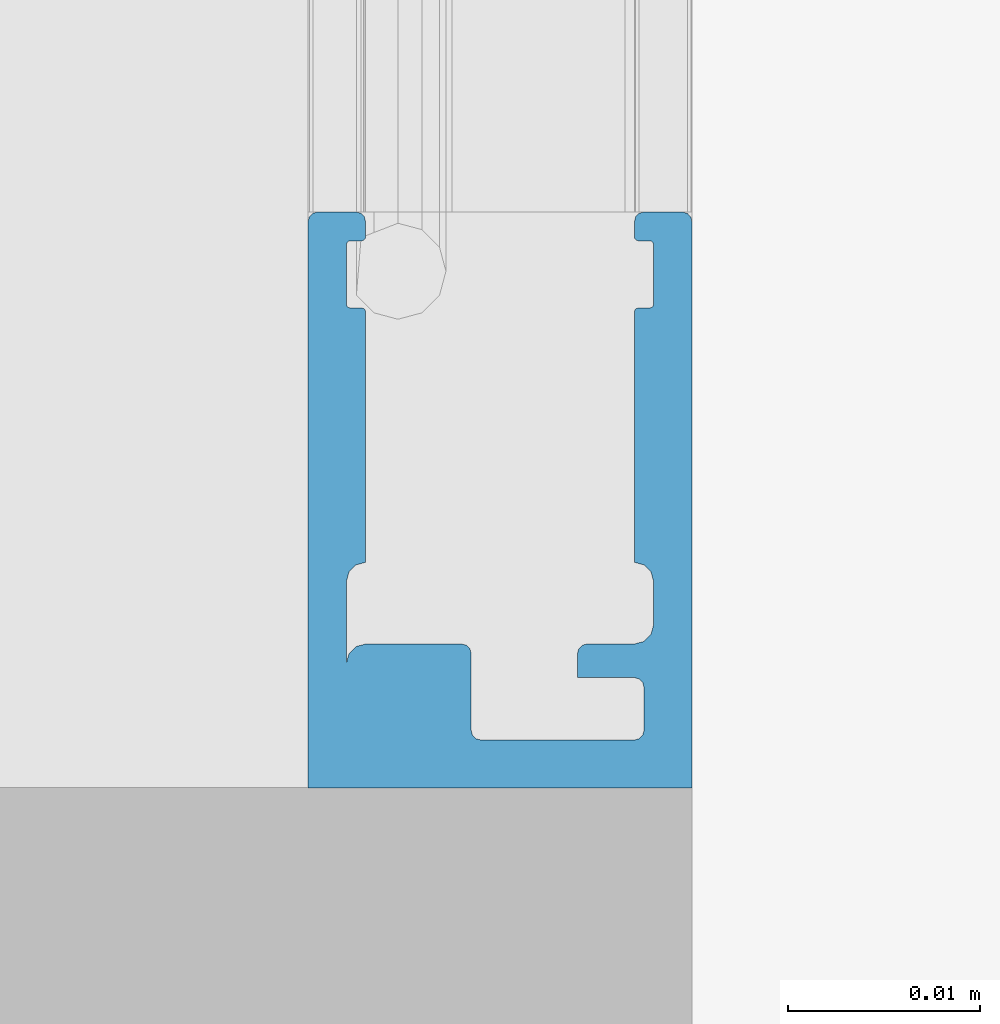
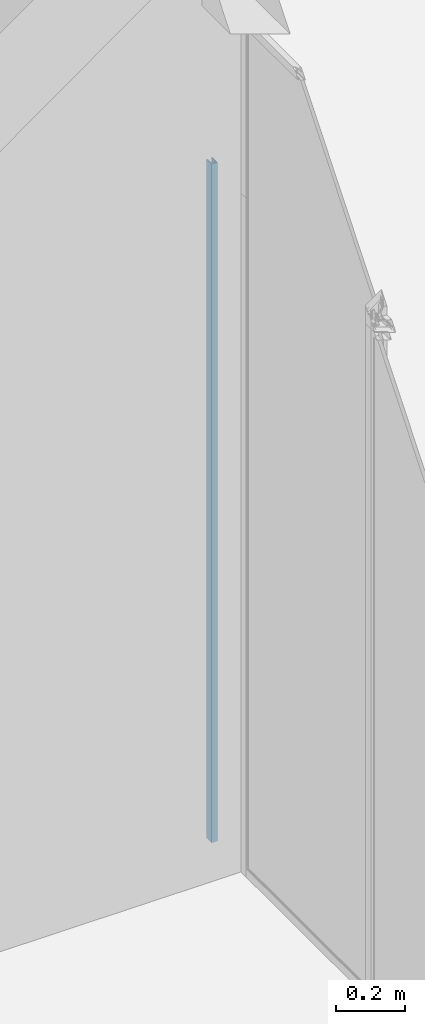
# One storey, part 94 of 387: 1 building element part, 2 elements without a shape of their own.
"""IFC2X3 building model written with IfcOpenShell, lengths in millimetres."""

import ifcopenshell
import ifcopenshell.guid

model = None  # the IFC model being written
_history = None  # IfcOwnerHistory: only IFC2X3 demands one
_inside = {}  # id of a spatial element -> (the spatial element, [elements in it])
_under = {}  # id of a project, library or spatial element -> (it, [spatial elements below it])
_declared = {}  # id of a project -> (the project, [libraries it declares])
_typed = {}  # id of a type object -> (the type object, [elements of that type])
_made_of = {}  # id of a material, layer set ... -> (it, [elements and type objects made of it])


def new_model(schema):
    """Start an empty IFC model of exactly this schema.

    Asked for "IFC4X3", IfcOpenShell would pick the latest addendum, in which some entities
    have other attributes; the version numbers below select the first issue.
    IFC2X3 requires an IfcOwnerHistory on every rooted entity: one is made here for all.
    """
    global model, _history
    if schema == "IFC4X3":
        model = ifcopenshell.file(schema_version=(4, 3, 0, 0))
    else:
        model = ifcopenshell.file(schema=schema)
    _inside.clear()
    _under.clear()
    _declared.clear()
    _typed.clear()
    _made_of.clear()
    _history = None
    if model.schema == "IFC2X3":
        org = make("IfcOrganization", Name="unknown")
        user = make(
            "IfcPersonAndOrganization",
            ThePerson=make("IfcPerson", FamilyName="unknown"),
            TheOrganization=org,
        )
        app = make(
            "IfcApplication",
            ApplicationDeveloper=org,
            Version="unknown",
            ApplicationFullName="unknown",
            ApplicationIdentifier="unknown",
        )
        _history = make(
            "IfcOwnerHistory",
            OwningUser=user,
            OwningApplication=app,
            ChangeAction="ADDED",
            CreationDate=0,
        )
    return model


def make(cls, **values):
    """One entity of the class cls with the attributes given. An attribute that is None is left unset."""
    return model.create_entity(
        cls, **{name: value for name, value in values.items() if value is not None}
    )


def entity(cls, *values):
    """Any entity or typed value of the class cls, its attributes in the order of the schema. None: left unset."""
    e = model.create_entity(cls)
    for i, value in enumerate(values):
        if value is not None:
            e[i] = value
    return e


def rooted(cls, **values):
    """An entity with a GlobalId (a new one), such as an element, a storey or a relation."""
    return make(cls, GlobalId=ifcopenshell.guid.new(), OwnerHistory=_history, **values)


def si_unit(unit_type, name, prefix=None):
    """IfcSIUnit, for example si_unit("LENGTHUNIT", "METRE", prefix="MILLI")."""
    return make("IfcSIUnit", UnitType=unit_type, Prefix=prefix, Name=name)


def converted_unit(unit_type, name, factor, base, dimensions=None, offset=None):
    """IfcConversionBasedUnit, such as the inch: factor (a typed value) times the base unit."""
    return make(
        "IfcConversionBasedUnit"
        if offset is None
        else "IfcConversionBasedUnitWithOffset",
        ConversionOffset=offset,
        Dimensions=None
        if dimensions is None
        else entity("IfcDimensionalExponents", *dimensions),
        UnitType=unit_type,
        Name=name,
        ConversionFactor=make(
            "IfcMeasureWithUnit", ValueComponent=factor, UnitComponent=base
        ),
    )


def derived_unit(unit_type, elements):
    """IfcDerivedUnit: a product of units, each with its exponent."""
    return make(
        "IfcDerivedUnit",
        Elements=[
            make("IfcDerivedUnitElement", Unit=unit, Exponent=power)
            for unit, power in elements
        ],
        UnitType=unit_type,
    )


def money_unit(currency):
    """IfcMonetaryUnit."""
    return make("IfcMonetaryUnit", Currency=currency)


def assignment(units):
    """IfcUnitAssignment: the units of a project."""
    return None if units is None else make("IfcUnitAssignment", Units=units)


def point(xyz):
    """IfcCartesianPoint."""
    return None if xyz is None else make("IfcCartesianPoint", Coordinates=xyz)


def direction(xyz):
    """IfcDirection."""
    return None if xyz is None else make("IfcDirection", DirectionRatios=xyz)


def frame(location, z_axis=None, x_axis=None):
    """IfcAxis2Placement3D, a coordinate frame: its origin and axes. An axis left out is left unset."""
    return make(
        "IfcAxis2Placement3D",
        Location=point(location),
        Axis=direction(z_axis),
        RefDirection=direction(x_axis),
    )


def origin_with_axes():
    """The frame at (0, 0, 0) with the z axis (0, 0, 1) and the x axis (1, 0, 0) written out."""
    return frame((0.0, 0.0, 0.0), z_axis=(0.0, 0.0, 1.0), x_axis=(1.0, 0.0, 0.0))


def place(relative_to, where):
    """IfcLocalPlacement: puts the frame where relative to a parent placement (None: the world)."""
    return make(
        "IfcLocalPlacement", PlacementRelTo=relative_to, RelativePlacement=where
    )


def context(
    kind, dimensions, precision=None, world=None, true_north=None, identifier=None
):
    """IfcGeometricRepresentationContext, for example the 3D "Model" context."""
    return make(
        "IfcGeometricRepresentationContext",
        ContextIdentifier=identifier,
        ContextType=kind,
        CoordinateSpaceDimension=dimensions,
        Precision=precision,
        WorldCoordinateSystem=world,
        TrueNorth=true_north,
    )


def subcontext(parent, identifier, kind, view, scale=None):
    """IfcGeometricRepresentationSubContext, for example "Body" below "Model"."""
    return make(
        "IfcGeometricRepresentationSubContext",
        ContextIdentifier=identifier,
        ContextType=kind,
        ParentContext=parent,
        TargetScale=scale,
        TargetView=view,
    )


def project(units=None, contexts=None):
    """IfcProject with its units and contexts."""
    return rooted(
        "IfcProject",
        Name="project",
        RepresentationContexts=contexts,
        UnitsInContext=assignment(units),
    )


def spatial(cls, under=None, at=None, **own):
    """A site, building, storey or space (cls), placed at a placement, below another one or the project."""
    s = rooted(cls, ObjectPlacement=at, **own)
    if under is not None:
        _under.setdefault(under.id(), (under, []))[1].append(s)
    return s


def faces_of(points, faces, orient=None, outer=None):
    """IfcFace entities. A face is a list of loops; a loop is a list of indices into points, from 0.

    orient and outer hold one flag for each loop. By default every Orientation is true, the
    first loop of a face is its IfcFaceOuterBound and the others are IfcFaceBound.
    """
    made = []
    for i, loops in enumerate(faces):
        bounds = []
        for j, loop in enumerate(loops):
            is_outer = j == 0 if outer is None else outer[i][j]
            bounds.append(
                make(
                    "IfcFaceOuterBound" if is_outer else "IfcFaceBound",
                    Bound=make("IfcPolyLoop", Polygon=[points[k] for k in loop]),
                    Orientation=True if orient is None else orient[i][j],
                )
            )
        made.append(make("IfcFace", Bounds=bounds))
    return made


def faceted_brep(points, faces, orient=None, outer=None, voids=None):
    """IfcFacetedBrep: a solid bounded by flat faces; with voids (closed shells), ...WithVoids."""
    shared = [point(p) for p in points]
    hull = make("IfcClosedShell", CfsFaces=faces_of(shared, faces, orient, outer))
    if voids is None:
        return make("IfcFacetedBrep", Outer=hull)
    return make(
        "IfcFacetedBrepWithVoids",
        Outer=hull,
        Voids=[
            make(cls, CfsFaces=faces_of(shared, fs, o, b)) for cls, fs, o, b in voids
        ],
    )


def shape(context_of_items, identifier, shape_type, items):
    """IfcShapeRepresentation: the items that make up one representation, for example the "Body"."""
    return make(
        "IfcShapeRepresentation",
        ContextOfItems=context_of_items,
        RepresentationIdentifier=identifier,
        RepresentationType=shape_type,
        Items=items,
    )


def source(mapping_origin, context_of_items, identifier, shape_type, items):
    """IfcRepresentationMap: a shape defined once, which mapped items show again and again."""
    return make(
        "IfcRepresentationMap",
        MappingOrigin=mapping_origin,
        MappedRepresentation=shape(context_of_items, identifier, shape_type, items),
    )


def transform(
    local_origin,
    x_axis=None,
    y_axis=None,
    z_axis=None,
    scale=None,
    scale2=None,
    scale3=None,
    uniform=True,
):
    """IfcCartesianTransformationOperator3D, or its non-uniform kind. x_axis, y_axis, z_axis: its Axis1, 2, 3."""
    if uniform:
        return make(
            "IfcCartesianTransformationOperator3D",
            Axis1=direction(x_axis),
            Axis2=direction(y_axis),
            LocalOrigin=point(local_origin),
            Scale=scale,
            Axis3=direction(z_axis),
        )
    return make(
        "IfcCartesianTransformationOperator3DnonUniform",
        Axis1=direction(x_axis),
        Axis2=direction(y_axis),
        LocalOrigin=point(local_origin),
        Scale=scale,
        Axis3=direction(z_axis),
        Scale2=scale2,
        Scale3=scale3,
    )


def mapped(mapping_source, mapping_target):
    """IfcMappedItem: shows the shape of a source again, moved by a transform."""
    return make(
        "IfcMappedItem", MappingSource=mapping_source, MappingTarget=mapping_target
    )


def material(Name=None, Category=None):
    """IfcMaterial."""
    return make("IfcMaterial", Name=Name, Category=Category)


def made_of(thing, what):
    """Note that an element or type object is made of a material, layer set ...; save() writes the relation."""
    if what is not None:
        _made_of.setdefault(what.id(), (what, []))[1].append(thing)
    return thing


def type_object(cls, material=None, **own):
    """A type object (cls), such as IfcWallType, which elements share."""
    return made_of(rooted(cls, **own), material)


def element(
    cls,
    number,
    at=None,
    inside=None,
    cuts=None,
    type_object=None,
    material=None,
    context=None,
    identifier="Body",
    shape_type=None,
    held_by="IfcProductDefinitionShape",
    body=None,
    shapes=None,
    **own,
):
    """One element of the class cls, such as IfcWall. Its Tag is "e" and its number.

    at: its placement. inside: the storey or other place that contains it. cuts: it is an
    opening in that element (IfcRelVoidsElement). A single representation is given by context,
    identifier, shape_type and body (its items); several are given by shapes. held_by: the class
    of the entity that holds the representations. save() writes the other relations.
    """
    e = rooted(cls, Tag="e%d" % number, ObjectPlacement=at, **own)
    if body is not None:
        shapes = [shape(context, identifier, shape_type, body)]
    if shapes is not None:
        e.Representation = make(held_by, Representations=shapes)
    if inside is not None:
        _inside.setdefault(inside.id(), (inside, []))[1].append(e)
    if cuts is not None:
        rooted(
            "IfcRelVoidsElement", RelatingBuildingElement=cuts, RelatedOpeningElement=e
        )
    if type_object is not None:
        _typed.setdefault(type_object.id(), (type_object, []))[1].append(e)
    return made_of(e, material)


def aggregate(whole, parts):
    """IfcRelAggregates: a whole, such as a stair, and the parts it consists of."""
    return rooted("IfcRelAggregates", RelatingObject=whole, RelatedObjects=parts)


def save(model, path):
    """Write the relations noted so far, then the file.

    IfcRelAggregates (storeys below a building ...), IfcRelContainedInSpatialStructure (elements
    in a storey), IfcRelDefinesByType, IfcRelAssociatesMaterial and IfcRelDeclares: one each for
    every whole, place, type object, material and project.
    """
    for whole, parts in _under.values():
        aggregate(whole, parts)
    for where, things in _inside.values():
        rooted(
            "IfcRelContainedInSpatialStructure",
            RelatedElements=things,
            RelatingStructure=where,
        )
    for kind, things in _typed.values():
        rooted("IfcRelDefinesByType", RelatedObjects=things, RelatingType=kind)
    for what, things in _made_of.values():
        rooted("IfcRelAssociatesMaterial", RelatedObjects=things, RelatingMaterial=what)
    for by, libraries in _declared.values():
        rooted("IfcRelDeclares", RelatingContext=by, RelatedDefinitions=libraries)
    model.write(path)


model = new_model("IFC2X3")

# Units and contexts
model_context = context("Model", 3, precision=0.01, world=origin_with_axes(), true_north=direction((0.0, 1.0)))
body_context = subcontext(model_context, "Body", "Model", "MODEL_VIEW")
ifc_project = project(units=[si_unit("LENGTHUNIT", "METRE", prefix="MILLI"), si_unit("AREAUNIT", "SQUARE_METRE"), si_unit("VOLUMEUNIT", "CUBIC_METRE"), converted_unit("PLANEANGLEUNIT", "DEGREE", entity("IfcPlaneAngleMeasure", 0.0174532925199), si_unit("PLANEANGLEUNIT", "RADIAN"), dimensions=[0, 0, 0, 0, 0, 0, 0]), si_unit("SOLIDANGLEUNIT", "STERADIAN"), money_unit("EUR"), converted_unit("TIMEUNIT", "Year", entity("IfcTimeMeasure", 31556926.0), si_unit("TIMEUNIT", "SECOND"), dimensions=[0, 0, 1, 0, 0, 0, 0]), si_unit("MASSUNIT", "GRAM", prefix="KILO"), si_unit("THERMODYNAMICTEMPERATUREUNIT", "DEGREE_CELSIUS"), si_unit("LUMINOUSINTENSITYUNIT", "LUMEN"), si_unit("ENERGYUNIT", "JOULE", prefix="MEGA"), derived_unit("THERMALCONDUCTANCEUNIT", [(si_unit("POWERUNIT", "WATT"), 1), (si_unit("LENGTHUNIT", "METRE"), -1), (si_unit("THERMODYNAMICTEMPERATUREUNIT", "KELVIN"), -1)]), derived_unit("SPECIFICHEATCAPACITYUNIT", [(si_unit("ENERGYUNIT", "JOULE"), 1), (si_unit("MASSUNIT", "GRAM", prefix="KILO"), -1), (si_unit("THERMODYNAMICTEMPERATUREUNIT", "KELVIN"), -1)]), derived_unit("MASSDENSITYUNIT", [(si_unit("MASSUNIT", "GRAM", prefix="KILO"), 1), (si_unit("VOLUMEUNIT", "CUBIC_METRE"), -1)])], contexts=[model_context])

# Site, building, storey
site_placement = place(None, origin_with_axes())
site = spatial("IfcSite", under=ifc_project, at=site_placement, Name="Puškini 31, Narva", CompositionType="ELEMENT")
building_placement = place(site_placement, origin_with_axes())
building = spatial("IfcBuilding", under=site, at=building_placement, Name="Narva Riigigümnaasium", CompositionType="ELEMENT")
storey_placement = place(building_placement, frame((0.0, 0.0, 2640.0), z_axis=(0.0, 0.0, 1.0), x_axis=(1.0, 0.0, 0.0)))
storey = spatial("IfcBuildingStorey", under=building, at=storey_placement, Name="2.korrus +2.64", CompositionType="ELEMENT", Elevation=2640.0)

# Curtain wall, member, building element part
curtain_wall_type = type_object("IfcCurtainWallType", Name="Curtain Wall Type", PredefinedType="NOTDEFINED")
curtain_wall_placement = place(storey_placement, frame((28390.0000001, 185629.946958, -0.000112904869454), z_axis=(0.0, 0.0, 1.0), x_axis=(1.0, 0.0, 0.0)))
curtain_wall = element("IfcCurtainWall", 1, at=curtain_wall_placement, inside=storey, type_object=curtain_wall_type, Name="G-SKLF-20")
member_type = type_object("IfcMemberType", Name="30 x 10", PredefinedType="MULLION")
member_placement = place(curtain_wall_placement, frame((0.0, -1200.0, 0.0), z_axis=(0.0, 0.0, 1.0), x_axis=(0.0, -1.0, 0.0)))
member = element("IfcMember", 2, at=member_placement, type_object=member_type, Name="G-SKLF-42-raam", ObjectType="MULLION")
aggregate(curtain_wall, [member])
ifc_material = material(Name="ET-04_Alumiinium")
shared_shape = source(origin_with_axes(), body_context, "Body", "Brep", [
    faceted_brep([(0.0, 9.99999999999, 0.0), (0.0, -9.99999999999, 0.0), (0.0, -9.99999999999, 2400.00000477), (0.0, 9.99999999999, 2400.00000477), (29.5, 10.0, 0.0), (29.75, 9.93301270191, 0.0), (29.9330127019, 9.75000000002, 0.0), (30.0, 9.5, 0.0), (30.0, 7.49999999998, 0.0), (29.9330127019, 7.24999999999, 0.0), (29.75, 7.06698729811, 0.0), (29.5, 7.00000000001, 0.0), (28.7609519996, 6.99999999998, 0.0), (28.7, 6.99999999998, 0.0), (28.6, 7.02679491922, 0.0), (28.5267949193, 7.09999999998, 0.0), (28.5, 7.19999999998, 0.0), (28.5, 7.24760028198, 0.0), (28.5, 7.76282847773, 0.0), (28.4849473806, 7.87744178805, 0.0), (28.4104265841, 7.9658128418, 0.0), (28.3, 8.00000000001, 0.0), (25.2, 8.00000000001, 0.0), (25.1, 7.97320508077, 0.0), (25.0267949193, 7.90000000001, 0.0), (25.0, 7.8, 0.0), (25.0, 7.20000000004, 0.0), (24.9732050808, 7.10000000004, 0.0), (24.9, 7.02679491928, 0.0), (24.8, 7.00000000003, 0.0), (11.7527616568, 6.99999999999, 0.0), (11.6187870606, 7.49999999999, 0.0), (11.2527616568, 7.86602540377, 0.0), (10.7527616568, 7.99999999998, 0.0), (6.49999999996, 7.99999999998, 0.0), (6.99999999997, 7.86602540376, 0.0), (7.36602540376, 7.49999999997, 0.0), (7.49999999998, 6.99999999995, 0.0), (7.49999999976, 2.00000000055, 0.0), (7.43301270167, 1.75000000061, 0.0), (7.24999999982, 1.56698729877, 0.0), (6.99999999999, 1.50000000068, 0.0), (2.99998847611, 1.50000000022, 0.0), (2.75096907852, 1.43357737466, 0.0), (2.56811176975, 1.25195735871, 0.0), (2.5, 1.00339466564, 0.0), (2.5, -6.99999999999, 0.0), (2.56698729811, -7.24999999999, 0.0), (2.75, -7.43301270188, 0.0), (3.0, -7.49999999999, 0.0), (5.24723834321, -7.49999999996, 0.0), (5.49723834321, -7.43301270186, 0.0), (5.6802510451, -7.24999999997, 0.0), (5.7472383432, -6.99999999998, 0.0), (5.74723834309, -4.03369212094, 0.0), (7.0, -4.03369212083, 0.0), (7.24999999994, -4.10067941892, 0.0), (7.43301270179, -4.28369212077, 0.0), (7.49999999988, -4.5336921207, 0.0), (7.49999999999, -7.00000000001, 0.0), (7.63397459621, -7.50000000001, 0.0), (7.99999999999, -7.86602540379, 0.0), (8.49999999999, -8.00000000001, 0.0), (10.7527616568, -7.99999999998, 0.0), (11.2527616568, -7.86602540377, 0.0), (11.6187870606, -7.49999999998, 0.0), (11.7527616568, -6.99999999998, 0.0), (24.8, -7.00000000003, 0.0), (24.9, -7.02679491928, 0.0), (24.9732050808, -7.10000000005, 0.0), (25.0, -7.20000000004, 0.0), (25.0, -7.79999999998, 0.0), (25.0267949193, -7.89999999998, 0.0), (25.1, -7.97320508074, 0.0), (25.2, -7.99999999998, 0.0), (28.3, -7.99999999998, 0.0), (28.4, -7.97320508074, 0.0), (28.4732050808, -7.89999999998, 0.0), (28.5, -7.79999999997, 0.0), (28.5, -7.19999999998, 0.0), (28.5267949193, -7.09999999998, 0.0), (28.6, -7.02679491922, 0.0), (28.7, -6.99999999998, 0.0), (29.5, -6.99999999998, 0.0), (29.75, -7.06698729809, 0.0), (29.9330127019, -7.24999999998, 0.0), (30.0, -7.49999999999, 0.0), (30.0, -9.5, 0.0), (29.9224245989, -9.76651288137, 0.0), (29.7157683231, -9.95182408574, 0.0), (29.4424074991, -9.99999999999, 0.0), (29.4424074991, -9.99999999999, 2400.00000477), (29.7157683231, -9.95182408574, 2400.00000477), (29.9224245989, -9.76651288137, 2400.00000477), (30.0, -9.5, 2400.00000477), (30.0, -7.49999999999, 2400.00000477), (29.9330127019, -7.24999999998, 2400.00000477), (29.75, -7.06698729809, 2400.00000477), (29.5, -6.99999999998, 2400.00000477), (28.7, -6.99999999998, 2400.00000477), (28.6, -7.02679491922, 2400.00000477), (28.5267949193, -7.09999999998, 2400.00000477), (28.5, -7.19999999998, 2400.00000477), (28.5, -7.79999999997, 2400.00000477), (28.4732050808, -7.89999999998, 2400.00000477), (28.4, -7.97320508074, 2400.00000477), (28.3, -7.99999999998, 2400.00000477), (25.2, -7.99999999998, 2400.00000477), (25.1, -7.97320508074, 2400.00000477), (25.0267949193, -7.89999999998, 2400.00000477), (25.0, -7.79999999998, 2400.00000477), (25.0, -7.20000000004, 2400.00000477), (24.9732050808, -7.10000000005, 2400.00000477), (24.9, -7.02679491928, 2400.00000477), (24.8, -7.00000000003, 2400.00000477), (11.7527616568, -6.99999999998, 2400.00000477), (11.6187870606, -7.49999999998, 2400.00000477), (11.2527616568, -7.86602540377, 2400.00000477), (10.7527616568, -7.99999999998, 2400.00000477), (8.49999999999, -8.00000000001, 2400.00000477), (7.99999999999, -7.86602540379, 2400.00000477), (7.63397459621, -7.50000000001, 2400.00000477), (7.49999999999, -7.00000000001, 2400.00000477), (7.49999999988, -4.5336921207, 2400.00000477), (7.43301270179, -4.28369212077, 2400.00000477), (7.24999999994, -4.10067941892, 2400.00000477), (7.0, -4.03369212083, 2400.00000477), (5.74723834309, -4.03369212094, 2400.00000477), (5.7472383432, -6.99999999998, 2400.00000477), (5.6802510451, -7.24999999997, 2400.00000477), (5.49723834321, -7.43301270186, 2400.00000477), (5.24723834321, -7.49999999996, 2400.00000477), (3.0, -7.49999999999, 2400.00000477), (2.75, -7.43301270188, 2400.00000477), (2.56698729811, -7.24999999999, 2400.00000477), (2.5, -6.99999999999, 2400.00000477), (2.5, 1.00339466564, 2400.00000477), (2.56811176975, 1.25195735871, 2400.00000477), (2.75096907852, 1.43357737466, 2400.00000477), (2.99998847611, 1.50000000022, 2400.00000477), (6.99999999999, 1.50000000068, 2400.00000477), (7.24999999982, 1.56698729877, 2400.00000477), (7.43301270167, 1.75000000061, 2400.00000477), (7.49999999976, 2.00000000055, 2400.00000477), (7.49999999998, 6.99999999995, 2400.00000477), (7.36602540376, 7.49999999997, 2400.00000477), (6.99999999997, 7.86602540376, 2400.00000477), (6.49999999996, 7.99999999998, 2400.00000477), (10.7527616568, 7.99999999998, 2400.00000477), (11.2527616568, 7.86602540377, 2400.00000477), (11.6187870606, 7.49999999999, 2400.00000477), (11.7527616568, 6.99999999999, 2400.00000477), (24.8, 7.00000000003, 2400.00000477), (24.9, 7.02679491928, 2400.00000477), (24.9732050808, 7.10000000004, 2400.00000477), (25.0, 7.20000000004, 2400.00000477), (25.0, 7.8, 2400.00000477), (25.0267949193, 7.90000000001, 2400.00000477), (25.1, 7.97320508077, 2400.00000477), (25.2, 8.00000000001, 2400.00000477), (28.3, 8.00000000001, 2400.00000477), (28.4104265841, 7.9658128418, 2400.00000477), (28.4849473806, 7.87744178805, 2400.00000477), (28.5, 7.76282847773, 2400.00000477), (28.5, 7.24760028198, 2400.00000477), (28.5, 7.19999999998, 2400.00000477), (28.5267949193, 7.09999999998, 2400.00000477), (28.6, 7.02679491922, 2400.00000477), (28.7, 6.99999999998, 2400.00000477), (28.7609519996, 6.99999999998, 2400.00000477), (29.5, 7.00000000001, 2400.00000477), (29.75, 7.06698729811, 2400.00000477), (29.9330127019, 7.24999999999, 2400.00000477), (30.0, 7.49999999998, 2400.00000477), (30.0, 9.5, 2400.00000477), (29.9330127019, 9.75000000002, 2400.00000477), (29.75, 9.93301270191, 2400.00000477), (29.5, 10.0, 2400.00000477)], [[[0, 1, 2, 3]], [[0, 4, 5, 6, 7, 8, 9, 10, 11, 12, 13, 14, 15, 16, 17, 18, 19, 20, 21, 22, 23, 24, 25, 26, 27, 28, 29, 30, 31, 32, 33, 34, 35, 36, 37, 38, 39, 40, 41, 42, 43, 44, 45, 46, 47, 48, 49, 50, 51, 52, 53, 54, 55, 56, 57, 58, 59, 60, 61, 62, 63, 64, 65, 66, 67, 68, 69, 70, 71, 72, 73, 74, 75, 76, 77, 78, 79, 80, 81, 82, 83, 84, 85, 86, 87, 88, 89, 90, 1]], [[1, 90, 91, 2]], [[3, 2, 91, 92, 93, 94, 95, 96, 97, 98, 99, 100, 101, 102, 103, 104, 105, 106, 107, 108, 109, 110, 111, 112, 113, 114, 115, 116, 117, 118, 119, 120, 121, 122, 123, 124, 125, 126, 127, 128, 129, 130, 131, 132, 133, 134, 135, 136, 137, 138, 139, 140, 141, 142, 143, 144, 145, 146, 147, 148, 149, 150, 151, 152, 153, 154, 155, 156, 157, 158, 159, 160, 161, 162, 163, 164, 165, 166, 167, 168, 169, 170, 171, 172, 173, 174, 175, 176, 177]], [[4, 0, 3, 177]], [[5, 4, 177, 176]], [[6, 5, 176, 175]], [[7, 6, 175, 174]], [[8, 7, 174, 173]], [[9, 8, 173, 172]], [[10, 9, 172, 171]], [[11, 10, 171, 170]], [[12, 11, 170, 169]], [[13, 12, 169, 168]], [[14, 13, 168, 167]], [[15, 14, 167, 166]], [[16, 15, 166, 165]], [[17, 16, 165, 164]], [[18, 17, 164, 163]], [[19, 18, 163, 162]], [[20, 19, 162, 161]], [[21, 20, 161, 160]], [[22, 21, 160, 159]], [[23, 22, 159, 158]], [[24, 23, 158, 157]], [[25, 24, 157, 156]], [[26, 25, 156, 155]], [[27, 26, 155, 154]], [[28, 27, 154, 153]], [[29, 28, 153, 152]], [[30, 29, 152, 151]], [[31, 30, 151, 150]], [[32, 31, 150, 149]], [[33, 32, 149, 148]], [[34, 33, 148, 147]], [[35, 34, 147, 146]], [[36, 35, 146, 145]], [[37, 36, 145, 144]], [[38, 37, 144, 143]], [[39, 38, 143, 142]], [[40, 39, 142, 141]], [[41, 40, 141, 140]], [[42, 41, 140, 139]], [[43, 42, 139, 138]], [[44, 43, 138, 137]], [[45, 44, 137, 136]], [[46, 45, 136, 135]], [[47, 46, 135, 134]], [[48, 47, 134, 133]], [[49, 48, 133, 132]], [[50, 49, 132, 131]], [[51, 50, 131, 130]], [[52, 51, 130, 129]], [[53, 52, 129, 128]], [[54, 53, 128, 127]], [[55, 54, 127, 126]], [[56, 55, 126, 125]], [[57, 56, 125, 124]], [[58, 57, 124, 123]], [[59, 58, 123, 122]], [[60, 59, 122, 121]], [[61, 60, 121, 120]], [[62, 61, 120, 119]], [[63, 62, 119, 118]], [[64, 63, 118, 117]], [[65, 64, 117, 116]], [[66, 65, 116, 115]], [[67, 66, 115, 114]], [[68, 67, 114, 113]], [[69, 68, 113, 112]], [[70, 69, 112, 111]], [[71, 70, 111, 110]], [[72, 71, 110, 109]], [[73, 72, 109, 108]], [[74, 73, 108, 107]], [[75, 74, 107, 106]], [[76, 75, 106, 105]], [[77, 76, 105, 104]], [[78, 77, 104, 103]], [[79, 78, 103, 102]], [[80, 79, 102, 101]], [[81, 80, 101, 100]], [[82, 81, 100, 99]], [[83, 82, 99, 98]], [[84, 83, 98, 97]], [[85, 84, 97, 96]], [[86, 85, 96, 95]], [[87, 86, 95, 94]], [[88, 87, 94, 93]], [[89, 88, 93, 92]], [[90, 89, 92, 91]]]),
])
building_element_part_placement = place(member_placement, origin_with_axes())
building_element_part = element("IfcBuildingElementPart", 3, at=building_element_part_placement, material=ifc_material, Name="ET-04_Alumiinium", context=body_context, shape_type="MappedRepresentation", body=[
    mapped(shared_shape, transform((0.0, 0.0, 0.0), x_axis=(-1.0, 0.0, 0.0), y_axis=(0.0, -1.0, 0.0), z_axis=(0.0, 0.0, 1.0))),
])
aggregate(member, [building_element_part])

save(model, "model.ifc")
